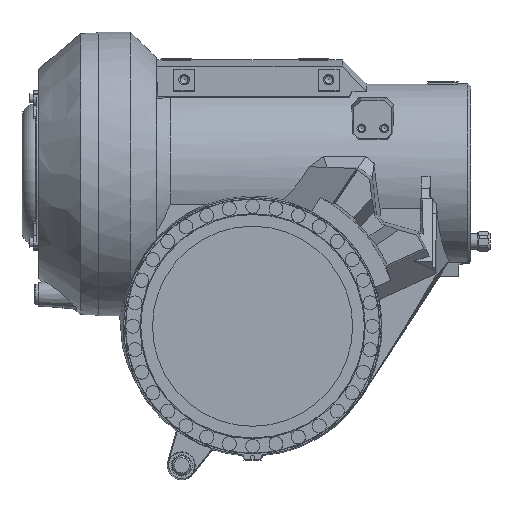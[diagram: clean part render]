
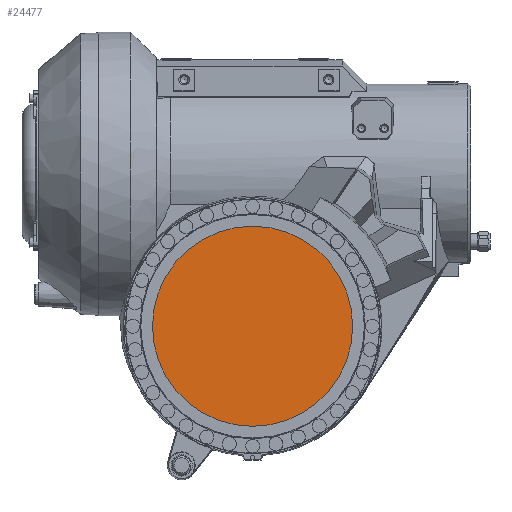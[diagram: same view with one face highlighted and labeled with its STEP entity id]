
A CAD part, front view. The second image highlights one B-rep face of the part: STEP entity #24477.
In plain terms, the highlighted planar face has unit normal (0, -1, 0).
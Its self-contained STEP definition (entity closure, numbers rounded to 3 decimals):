
#7091 = DIRECTION ( 'NONE',  ( 0., -1., 0. ) ) ;
#19081 = CARTESIAN_POINT ( 'NONE',  ( 350., -265., 2005. ) ) ;
#24477 = ADVANCED_FACE ( 'NONE', ( #32083 ), #78257, .F. ) ;
#32083 = FACE_OUTER_BOUND ( 'NONE', #63531, .T. ) ;
#32916 = DIRECTION ( 'NONE',  ( -1., 0., 0. ) ) ;
#40765 = CIRCLE ( 'NONE', #48898, 131.5 ) ;
#41061 = CARTESIAN_POINT ( 'NONE',  ( 350., -265., 2136. ) ) ;
#45109 = DIRECTION ( 'NONE',  ( 1., 0., 0. ) ) ;
#47030 = AXIS2_PLACEMENT_3D ( 'NONE', #41061, #79971, #32916 ) ;
#48898 = AXIS2_PLACEMENT_3D ( 'NONE', #19081, #7091, #45109 ) ;
#63531 = EDGE_LOOP ( 'NONE', ( #65437 ) ) ;
#63809 = EDGE_CURVE ( 'NONE', #68382, #68382, #40765, .T. ) ;
#65437 = ORIENTED_EDGE ( 'NONE', *, *, #63809, .T. ) ;
#68382 = VERTEX_POINT ( 'NONE', #83646 ) ;
#78257 = PLANE ( 'NONE',  #47030 ) ;
#79971 = DIRECTION ( 'NONE',  ( 0., 1., 0. ) ) ;
#83646 = CARTESIAN_POINT ( 'NONE',  ( 481.5, -265., 2005. ) ) ;
